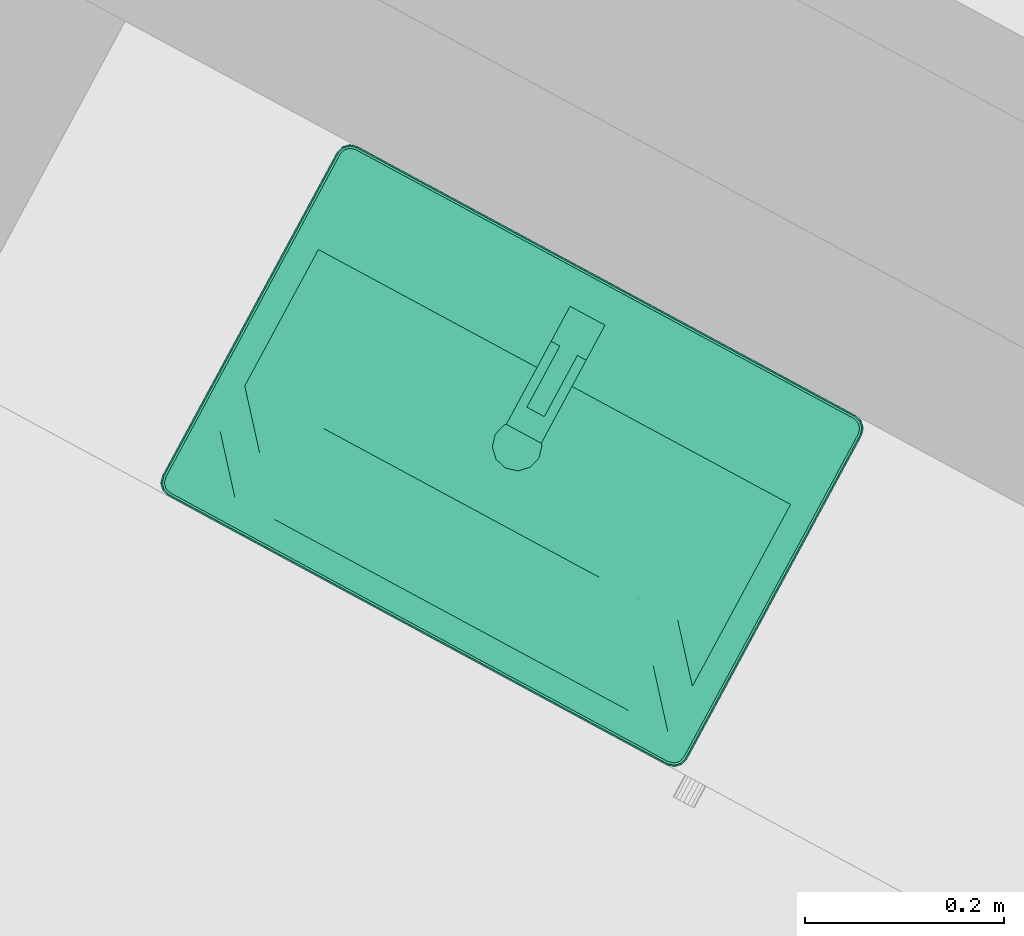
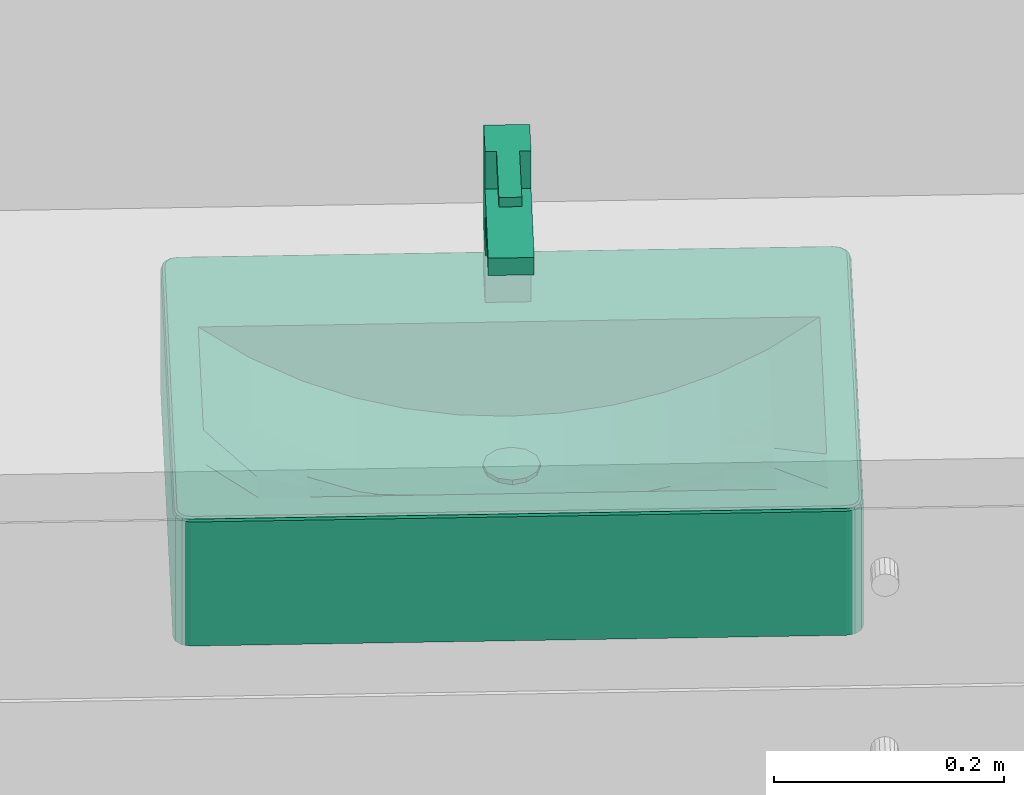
# One storey, part 26 of 52: 1 distribution element.
"""IFC2X3 building model written with IfcOpenShell, lengths in metres."""

from ifc_helpers import new_model, entity, si_unit, converted_unit, derived_unit, money_unit, direction, frame, origin_with_axes, place, context, subcontext, project, spatial, open_shell, faceted_brep, surface_model, type_object, element, save


model = new_model("IFC2X3")

# Units and contexts
model_context = context("Model", 3, precision=1e-05, world=origin_with_axes(), true_north=direction((0.0, 1.0)))
body_context = subcontext(model_context, "Body", "Model", "MODEL_VIEW")
ifc_project = project(units=[si_unit("LENGTHUNIT", "METRE"), si_unit("AREAUNIT", "SQUARE_METRE"), si_unit("VOLUMEUNIT", "CUBIC_METRE"), converted_unit("PLANEANGLEUNIT", "DEGREE", entity("IfcPlaneAngleMeasure", 0.0174532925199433), si_unit("PLANEANGLEUNIT", "RADIAN"), dimensions=[0, 0, 0, 0, 0, 0, 0]), money_unit("EUR"), converted_unit("TIMEUNIT", "Year", entity("IfcTimeMeasure", 31556926.0), si_unit("TIMEUNIT", "SECOND"), dimensions=[0, 0, 1, 0, 0, 0, 0]), si_unit("MASSUNIT", "GRAM", prefix="KILO"), si_unit("THERMODYNAMICTEMPERATUREUNIT", "DEGREE_CELSIUS"), si_unit("LUMINOUSINTENSITYUNIT", "LUMEN"), si_unit("ENERGYUNIT", "JOULE", prefix="MEGA"), derived_unit("THERMALCONDUCTANCEUNIT", [(si_unit("POWERUNIT", "WATT"), 1), (si_unit("LENGTHUNIT", "METRE"), -1), (si_unit("THERMODYNAMICTEMPERATUREUNIT", "KELVIN"), -1)]), derived_unit("SPECIFICHEATCAPACITYUNIT", [(si_unit("ENERGYUNIT", "JOULE"), 1), (si_unit("MASSUNIT", "GRAM", prefix="KILO"), -1), (si_unit("THERMODYNAMICTEMPERATUREUNIT", "KELVIN"), -1)]), derived_unit("MASSDENSITYUNIT", [(si_unit("MASSUNIT", "GRAM", prefix="KILO"), 1), (si_unit("VOLUMEUNIT", "CUBIC_METRE"), -1)])], contexts=[model_context])

# Site, building, storey
site_placement = place(None, frame((-3.949935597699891, 1.740105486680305, 0.0), z_axis=(0.0, 0.0, 1.0), x_axis=(0.8799804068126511, -0.475009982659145, 0.0)))
site = spatial("IfcSite", under=ifc_project, at=site_placement, Name="Gelände", CompositionType="ELEMENT")
building_placement = place(site_placement, origin_with_axes())
building = spatial("IfcBuilding", under=site, at=building_placement, Name="Gebäude", CompositionType="ELEMENT")
storey_placement = place(building_placement, origin_with_axes())
storey = spatial("IfcBuildingStorey", under=building, at=storey_placement, Name="Erdgeschoss", CompositionType="ELEMENT", Elevation=0.0)

# Distribution element
distribution_element_type = type_object("IfcDistributionElementType", Name="Waschbecken 1 22")
distribution_element_placement = place(storey_placement, frame((16.53573121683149, 6.588040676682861, 0.0), z_axis=(0.0, 0.0, 1.0), x_axis=(1.0, 0.0, 0.0)))
element("IfcDistributionElement", 1, at=distribution_element_placement, inside=storey, type_object=distribution_element_type, Name="Objekt-0061", context=body_context, shape_type="SurfaceModel", body=[
    faceted_brep([(-0.285, -0.4, 0.715), (-0.2925, -0.3979903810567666, 0.715), (-0.2979903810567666, -0.3925, 0.715), (-0.3, -0.385, 0.715), (-0.3, -0.01499999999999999, 0.715), (-0.2979903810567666, -0.007500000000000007, 0.715), (-0.2925, -0.002009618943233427, 0.715), (-0.285, 0.0, 0.715), (0.285, 0.0, 0.715), (0.2925, -0.002009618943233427, 0.715), (0.2979903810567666, -0.007500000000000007, 0.715), (0.3, -0.01499999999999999, 0.715), (0.3, -0.385, 0.715), (0.2979903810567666, -0.3925, 0.715), (0.2925, -0.3979903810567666, 0.715), (0.285, -0.4, 0.715), (0.27, -0.37, 0.715), (0.27, -0.11, 0.715), (-0.27, -0.11, 0.715), (-0.27, -0.37, 0.715), (-0.2849999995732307, -0.4000000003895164, 0.845), (-0.292499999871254, -0.3979903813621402, 0.845), (-0.297990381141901, -0.3925000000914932, 0.845), (-0.3000000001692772, -0.3849999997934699, 0.845), (-0.3000000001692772, -0.01499999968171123, 0.845), (-0.297990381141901, -0.00750000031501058, 0.845), (-0.292499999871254, -0.002009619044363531, 0.845), (-0.2849999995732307, 0.0, 0.845), (0.2849999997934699, 0.0, 0.845), (0.2925000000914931, -0.002009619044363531, 0.845), (0.2979903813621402, -0.00750000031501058, 0.845), (0.3000000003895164, -0.01499999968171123, 0.845), (0.3000000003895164, -0.3849999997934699, 0.845), (0.2979903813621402, -0.3925000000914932, 0.845), (0.2925000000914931, -0.3979903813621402, 0.845), (0.2849999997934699, -0.4000000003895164, 0.845), (0.27, -0.11, 0.84999999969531), (0.27, -0.37, 0.84999999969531), (-0.27, -0.11, 0.84999999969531), (-0.27, -0.37, 0.84999999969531), (-0.2849775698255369, -0.3998296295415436, 0.8462940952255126), (-0.292411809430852, -0.3978376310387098, 0.8462940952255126), (-0.2978376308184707, -0.3924118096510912, 0.8462940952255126), (-0.2998296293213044, -0.3849775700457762, 0.8462940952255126), (-0.2998296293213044, -0.01502242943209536, 0.8462940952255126), (-0.2978376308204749, -0.007588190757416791, 0.8462940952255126), (-0.292411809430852, -0.002162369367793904, 0.8462940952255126), (-0.2849775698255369, -0.0001703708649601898, 0.8462940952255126), (0.2849775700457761, -0.0001703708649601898, 0.8462940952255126), (0.2924118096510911, -0.002162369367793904, 0.8462940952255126), (0.297837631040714, -0.007588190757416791, 0.8462940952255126), (0.2998296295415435, -0.01502242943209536, 0.8462940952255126), (0.2998296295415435, -0.3849775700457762, 0.8462940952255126), (0.2978376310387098, -0.3924118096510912, 0.8462940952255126), (0.2924118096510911, -0.3978376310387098, 0.8462940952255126), (0.2849775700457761, -0.3998296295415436, 0.8462940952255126), (0.2843417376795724, -0.004999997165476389, 0.84999999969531), (-0.2843417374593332, -0.004999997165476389, 0.84999999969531), (-0.2899118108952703, -0.006492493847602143, 0.84999999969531), (-0.2935075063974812, -0.01008818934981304, 0.84999999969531), (-0.2950000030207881, -0.01565826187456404, 0.84999999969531), (-0.2950000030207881, -0.3843417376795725, 0.84999999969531), (-0.2935075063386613, -0.3899118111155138, 0.84999999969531), (-0.2899118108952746, -0.3935075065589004, 0.84999999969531), (-0.2843417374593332, -0.3950000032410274, 0.84999999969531), (0.2843417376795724, -0.3950000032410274, 0.84999999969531), (0.2899118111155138, -0.3935075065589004, 0.84999999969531), (0.2935075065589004, -0.3899118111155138, 0.84999999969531), (0.2950000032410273, -0.3843417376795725, 0.84999999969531), (0.2950000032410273, -0.01565826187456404, 0.84999999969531), (0.2935075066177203, -0.01008818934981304, 0.84999999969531), (0.2899118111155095, -0.006492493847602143, 0.84999999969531), (-0.2848071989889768, -0.3985355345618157, 0.8485355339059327), (-0.2917419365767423, -0.3966773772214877, 0.8485355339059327), (-0.2966773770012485, -0.3917419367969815, 0.8485355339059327), (-0.2985355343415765, -0.384807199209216, 0.8485355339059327), (-0.2985355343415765, -0.0151928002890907, 0.8485355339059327), (-0.2966773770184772, -0.008258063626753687, 0.8485355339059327), (-0.2917419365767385, -0.003322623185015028, 0.8485355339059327), (-0.2848071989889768, -0.001464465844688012, 0.8485355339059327), (0.2848071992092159, -0.001464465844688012, 0.8485355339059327), (0.2917419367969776, -0.003322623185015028, 0.8485355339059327), (0.2966773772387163, -0.008258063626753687, 0.8485355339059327), (0.2985355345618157, -0.0151928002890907, 0.8485355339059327), (0.2985355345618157, -0.384807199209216, 0.8485355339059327), (0.2966773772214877, -0.3917419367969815, 0.8485355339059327), (0.2917419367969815, -0.3966773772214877, 0.8485355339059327), (0.2848071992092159, -0.3985355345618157, 0.8485355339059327), (0.2845121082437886, -0.00370590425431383, 0.8498296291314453), (-0.2845121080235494, -0.00370590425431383, 0.8498296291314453), (-0.290581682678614, -0.005332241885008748, 0.8498296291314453), (-0.2946677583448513, -0.009418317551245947, 0.8498296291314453), (-0.2962940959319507, -0.01548789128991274, 0.8498296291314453), (-0.2962940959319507, -0.3845121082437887, 0.8498296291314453), (-0.2946677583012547, -0.3905816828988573, 0.8498296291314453), (-0.2905816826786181, -0.3946677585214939, 0.8498296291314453), (-0.2845121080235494, -0.3962940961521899, 0.8498296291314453), (0.2845121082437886, -0.3962940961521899, 0.8498296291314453), (0.2905816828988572, -0.3946677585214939, 0.8498296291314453), (0.2946677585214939, -0.3905816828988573, 0.8498296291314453), (0.2962940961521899, -0.3845121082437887, 0.8498296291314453), (0.2962940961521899, -0.01548789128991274, 0.8498296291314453), (0.2946677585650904, -0.009418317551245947, 0.8498296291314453), (0.2905816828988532, -0.005332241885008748, 0.8498296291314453)], [[[0, 1, 2, 3, 4, 5, 6, 7, 8, 9, 10, 11, 12, 13, 14, 15], [16, 17, 18, 19]], [[1, 0, 20, 21]], [[2, 1, 21, 22]], [[3, 2, 22, 23]], [[4, 3, 23, 24]], [[5, 4, 24, 25]], [[6, 5, 25, 26]], [[7, 6, 26, 27]], [[8, 7, 27, 28]], [[9, 8, 28, 29]], [[10, 9, 29, 30]], [[11, 10, 30, 31]], [[12, 11, 31, 32]], [[13, 12, 32, 33]], [[14, 13, 33, 34]], [[15, 14, 34, 35]], [[0, 15, 35, 20]], [[36, 17, 16, 37]], [[38, 18, 17, 36]], [[39, 19, 18, 38]], [[37, 16, 19, 39]], [[21, 20, 40, 41]], [[22, 21, 41, 42]], [[23, 22, 42, 43]], [[24, 23, 43, 44]], [[25, 24, 44, 45]], [[26, 25, 45, 46]], [[27, 26, 46, 47]], [[28, 27, 47, 48]], [[29, 28, 48, 49]], [[30, 29, 49, 50]], [[31, 30, 50, 51]], [[32, 31, 51, 52]], [[33, 32, 52, 53]], [[34, 33, 53, 54]], [[35, 34, 54, 55]], [[20, 35, 55, 40]], [[56, 57, 58, 59, 60, 61, 62, 63, 64, 65, 66, 67, 68, 69, 70, 71], [37, 39, 38, 36]], [[41, 40, 72, 73]], [[42, 41, 73, 74]], [[43, 42, 74, 75]], [[44, 43, 75, 76]], [[45, 44, 76, 77]], [[46, 45, 77, 78]], [[47, 46, 78, 79]], [[48, 47, 79, 80]], [[49, 48, 80, 81]], [[50, 49, 81, 82]], [[51, 50, 82, 83]], [[52, 51, 83, 84]], [[53, 52, 84, 85]], [[54, 53, 85, 86]], [[55, 54, 86, 87]], [[40, 55, 87, 72]], [[88, 89, 57, 56]], [[89, 90, 58, 57]], [[90, 91, 59, 58]], [[91, 92, 60, 59]], [[92, 93, 61, 60]], [[93, 94, 62, 61]], [[94, 95, 63, 62]], [[95, 96, 64, 63]], [[96, 97, 65, 64]], [[97, 98, 66, 65]], [[98, 99, 67, 66]], [[99, 100, 68, 67]], [[100, 101, 69, 68]], [[101, 102, 70, 69]], [[102, 103, 71, 70]], [[103, 88, 56, 71]], [[73, 72, 96, 95]], [[74, 73, 95, 94]], [[75, 74, 94, 93]], [[76, 75, 93, 92]], [[77, 76, 92, 91]], [[78, 77, 91, 90]], [[79, 78, 90, 89]], [[80, 79, 89, 88]], [[81, 80, 88, 103]], [[82, 81, 103, 102]], [[83, 82, 102, 101]], [[84, 83, 101, 100]], [[85, 84, 100, 99]], [[86, 85, 99, 98]], [[87, 86, 98, 97]], [[72, 87, 97, 96]]]),
    faceted_brep([(0.27, -0.37, 0.715), (-0.27, -0.37, 0.715), (-0.27, -0.11, 0.715), (0.27, -0.11, 0.715), (-0.01249999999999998, -0.210733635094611, 0.715), (0.0, -0.214083, 0.715), (0.01250000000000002, -0.210733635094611, 0.715), (0.02165063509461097, -0.201583, 0.715), (0.025, -0.189083, 0.715), (0.02165063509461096, -0.176583, 0.715), (0.01249999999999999, -0.167432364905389, 0.715), (0.0, -0.164083, 0.715), (-0.01250000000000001, -0.167432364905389, 0.715), (-0.02165063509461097, -0.176583, 0.715), (-0.025, -0.189083, 0.715), (-0.02165063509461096, -0.201583, 0.715), (0.135, -0.37, 0.85), (0.09, -0.37, 0.85), (0.04499999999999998, -0.37, 0.85), (0.0, -0.37, 0.85), (-0.04500000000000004, -0.37, 0.85), (-0.09000000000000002, -0.37, 0.85), (-0.135, -0.37, 0.85), (-0.18, -0.37, 0.85), (-0.225, -0.37, 0.85), (-0.27, -0.37, 0.85), (0.27, -0.37, 0.85), (0.225, -0.37, 0.85), (0.18, -0.37, 0.85), (-0.27, -0.214, 0.8499999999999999), (-0.27, -0.162, 0.8499999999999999), (-0.27, -0.11, 0.8499999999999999), (-0.27, -0.318, 0.85), (-0.27, -0.266, 0.8499999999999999), (-0.135, -0.11, 0.7726004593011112), (-0.09000000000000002, -0.11, 0.7598887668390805), (-0.04500000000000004, -0.11, 0.752449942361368), (0.0, -0.11, 0.75), (0.04499999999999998, -0.11, 0.752449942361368), (0.09, -0.11, 0.7598887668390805), (0.135, -0.11, 0.7726004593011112), (0.18, -0.11, 0.7911231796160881), (0.225, -0.11, 0.8163832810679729), (0.27, -0.11, 0.8500000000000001), (-0.225, -0.11, 0.8163832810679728), (-0.18, -0.11, 0.7911231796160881), (0.27, -0.266, 0.85), (0.27, -0.318, 0.85), (0.27, -0.162, 0.8500000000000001), (0.27, -0.214, 0.8500000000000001), (-0.0003097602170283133, -0.214, 0.7500168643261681), (0.0, -0.214083, 0.7500182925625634), (-0.01249999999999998, -0.210733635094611, 0.7506805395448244), (5.830679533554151e-05, -0.2140673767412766, 0.750017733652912), (0.0003097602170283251, -0.214, 0.7500168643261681), (0.01250000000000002, -0.210733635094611, 0.7506805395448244), (0.02165063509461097, -0.201583, 0.7511787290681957), (0.025, -0.189083, 0.7513610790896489), (0.02165063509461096, -0.176583, 0.7511787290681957), (0.01249999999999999, -0.167432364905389, 0.7506805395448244), (0.0, -0.164083, 0.75), (-0.01250000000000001, -0.167432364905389, 0.7506805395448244), (-0.02165063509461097, -0.176583, 0.7511787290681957), (-0.025, -0.189083, 0.7513610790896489), (-0.02165063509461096, -0.201583, 0.7511787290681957), (0.09, -0.318, 0.8096989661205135), (0.04499999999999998, -0.318, 0.8060213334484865), (0.0, -0.318, 0.8047990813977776), (-0.04500000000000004, -0.318, 0.8060213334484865), (-0.09000000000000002, -0.318, 0.8096989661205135), (-0.135, -0.318, 0.8158650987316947), (-0.18, -0.318, 0.8245766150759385), (-0.225, -0.318, 0.8359168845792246), (0.225, -0.318, 0.8359168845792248), (0.18, -0.318, 0.8245766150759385), (0.135, -0.318, 0.8158650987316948), (-0.225, -0.214, 0.8163832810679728), (-0.225, -0.162, 0.8163832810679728), (-0.225, -0.266, 0.8208433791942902), (-0.135, -0.162, 0.7726004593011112), (-0.09000000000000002, -0.162, 0.7598887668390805), (-0.04500000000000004, -0.162, 0.752449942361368), (0.0, -0.162, 0.75), (0.04499999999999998, -0.162, 0.752449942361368), (0.09, -0.162, 0.7598887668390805), (0.135, -0.162, 0.7726004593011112), (0.18, -0.162, 0.7911231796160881), (0.225, -0.162, 0.8163832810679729), (-0.18, -0.162, 0.7911231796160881), (0.225, -0.266, 0.8208433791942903), (0.225, -0.214, 0.8163832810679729), (-0.04500000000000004, -0.214, 0.752449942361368), (0.0, -0.266, 0.7614604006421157), (0.04499999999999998, -0.266, 0.7636864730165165), (0.04499999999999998, -0.214, 0.752449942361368), (-0.18, -0.214, 0.7911231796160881), (-0.135, -0.214, 0.7726004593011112), (-0.09000000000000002, -0.214, 0.7598887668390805), (0.09, -0.214, 0.7598887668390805), (0.135, -0.214, 0.7726004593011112), (0.18, -0.214, 0.7911231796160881), (-0.04500000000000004, -0.266, 0.7636864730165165), (0.09, -0.266, 0.7704312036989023), (-0.09000000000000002, -0.266, 0.7704312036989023), (-0.135, -0.266, 0.781904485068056), (-0.18, -0.266, 0.7984946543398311), (0.18, -0.266, 0.7984946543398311), (0.135, -0.266, 0.781904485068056)], [[[0, 1, 2, 3], [4, 5, 6, 7, 8, 9, 10, 11, 12, 13, 14, 15]], [[16, 17, 18, 19, 20, 21, 22, 23, 24, 25, 1, 0, 26, 27, 28]], [[29, 30, 31, 2, 1, 25, 32, 33]], [[34, 35, 36, 37, 38, 39, 40, 41, 42, 43, 3, 2, 31, 44, 45]], [[46, 47, 26, 0, 3, 43, 48, 49]], [[50, 51, 5, 4, 52]], [[53, 54, 55, 6, 5, 51]], [[56, 7, 6, 55]], [[57, 8, 7, 56]], [[58, 9, 8, 57]], [[59, 10, 9, 58]], [[60, 11, 10, 59]], [[61, 12, 11, 60]], [[62, 13, 12, 61]], [[63, 14, 13, 62]], [[64, 15, 14, 63]], [[52, 4, 15, 64]], [[16, 65, 17]], [[17, 66, 18]], [[18, 67, 19]], [[19, 68, 20]], [[20, 69, 21]], [[21, 70, 22]], [[22, 71, 23]], [[23, 72, 24]], [[24, 32, 25]], [[26, 73, 27]], [[27, 74, 28]], [[28, 75, 16]], [[29, 76, 77, 30]], [[30, 77, 44, 31]], [[72, 33, 32]], [[78, 29, 33]], [[79, 80, 35, 34]], [[80, 81, 36, 35]], [[81, 82, 37, 36]], [[82, 83, 38, 37]], [[83, 84, 39, 38]], [[84, 85, 40, 39]], [[85, 86, 41, 40]], [[86, 87, 42, 41]], [[87, 48, 43, 42]], [[77, 88, 45, 44]], [[88, 79, 34, 45]], [[47, 46, 89]], [[26, 47, 73]], [[90, 49, 48, 87]], [[46, 49, 90]], [[50, 91, 92, 51]], [[61, 60, 82, 81, 91, 50, 52, 64, 63, 62]], [[53, 93, 94, 54]], [[59, 58, 57, 56, 55, 54, 94, 83, 82, 60]], [[51, 92, 93, 53]], [[16, 75, 65]], [[17, 65, 66]], [[18, 66, 67]], [[19, 67, 68]], [[20, 68, 69]], [[21, 69, 70]], [[22, 70, 71]], [[23, 71, 72]], [[24, 72, 32]], [[27, 73, 74]], [[28, 74, 75]], [[78, 76, 29]], [[76, 95, 88, 77]], [[72, 78, 33]], [[96, 97, 80, 79]], [[97, 91, 81, 80]], [[94, 98, 84, 83]], [[98, 99, 85, 84]], [[99, 100, 86, 85]], [[100, 90, 87, 86]], [[95, 96, 79, 88]], [[46, 90, 89]], [[47, 89, 73]], [[92, 91, 101]], [[102, 94, 93]], [[66, 93, 92]], [[75, 102, 65]], [[65, 93, 66]], [[66, 92, 67]], [[67, 101, 68]], [[68, 103, 69]], [[69, 104, 70]], [[70, 105, 71]], [[71, 78, 72]], [[73, 106, 74]], [[74, 107, 75]], [[105, 76, 78]], [[105, 95, 76]], [[103, 97, 96]], [[101, 91, 97]], [[102, 98, 94]], [[107, 99, 98]], [[106, 100, 99]], [[89, 90, 100]], [[104, 96, 95]], [[73, 89, 106]], [[67, 92, 101]], [[65, 102, 93]], [[75, 107, 102]], [[68, 101, 103]], [[69, 103, 104]], [[70, 104, 105]], [[71, 105, 78]], [[74, 106, 107]], [[104, 95, 105]], [[101, 97, 103]], [[103, 96, 104]], [[107, 98, 102]], [[106, 99, 107]], [[89, 100, 106]]]),
    faceted_brep([(-0.02165063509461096, -0.201583, 0.75), (-0.025, -0.189083, 0.75), (-0.02165063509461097, -0.176583, 0.75), (-0.01250000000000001, -0.167432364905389, 0.75), (0.0, -0.164083, 0.75), (0.01249999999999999, -0.167432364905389, 0.75), (0.02165063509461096, -0.176583, 0.75), (0.025, -0.189083, 0.75), (0.02165063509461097, -0.201583, 0.75), (0.01250000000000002, -0.210733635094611, 0.75), (0.0, -0.214083, 0.75), (-0.01249999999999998, -0.210733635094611, 0.75), (-0.02165063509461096, -0.201583, 0.755), (-0.025, -0.189083, 0.755), (-0.02165063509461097, -0.176583, 0.755), (-0.01250000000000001, -0.167432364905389, 0.755), (0.0, -0.164083, 0.755), (0.01249999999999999, -0.167432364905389, 0.755), (0.02165063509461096, -0.176583, 0.755), (0.025, -0.189083, 0.755), (0.02165063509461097, -0.201583, 0.755), (0.01250000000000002, -0.210733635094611, 0.755), (0.0, -0.214083, 0.755), (-0.01249999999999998, -0.210733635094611, 0.755)], [[[0, 1, 2, 3, 4, 5, 6, 7, 8, 9, 10, 11]], [[0, 12, 13, 1]], [[1, 13, 14, 2]], [[2, 14, 15, 3]], [[3, 15, 16, 4]], [[4, 16, 17, 5]], [[5, 17, 18, 6]], [[6, 18, 19, 7]], [[7, 19, 20, 8]], [[8, 20, 21, 9]], [[9, 21, 22, 10]], [[10, 22, 23, 11]], [[11, 23, 12, 0]], [[12, 23, 22, 21, 20, 19, 18, 17, 16, 15, 14, 13]]]),
    surface_model("IfcShellBasedSurfaceModel", [(0.0, -0.189083, 0.757), (0.006310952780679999, -0.1781521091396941, 0.7564975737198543), (0.0, -0.17646109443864, 0.7564975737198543), (0.01093089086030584, -0.18277204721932, 0.7564975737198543), (0.0125, -0.167432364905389, 0.755), (0.0, -0.164083, 0.755), (-0.006310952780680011, -0.1781521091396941, 0.7564975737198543), (0.01262190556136, -0.189083, 0.7564975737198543), (0.02165063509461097, -0.176583, 0.755), (-0.01250000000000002, -0.167432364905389, 0.755), (-0.01093089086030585, -0.18277204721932, 0.7564975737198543), (0.01093089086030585, -0.19539395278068, 0.7564975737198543), (0.025, -0.189083, 0.755), (-0.02165063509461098, -0.176583, 0.755), (-0.01262190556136, -0.189083, 0.7564975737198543), (0.006310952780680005, -0.2000138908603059, 0.7564975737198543), (0.02165063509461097, -0.201583, 0.755), (-0.025, -0.189083, 0.755), (-0.01093089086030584, -0.19539395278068, 0.7564975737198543), (0.0, -0.20170490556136, 0.7564975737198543), (0.01250000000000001, -0.210733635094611, 0.755), (-0.02165063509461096, -0.201583, 0.755), (-0.006310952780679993, -0.2000138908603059, 0.7564975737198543), (0.0, -0.214083, 0.755), (-0.01249999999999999, -0.210733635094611, 0.755)], [open_shell([[[0, 1, 2]], [[0, 3, 1]], [[1, 4, 5, 2]], [[0, 2, 6]], [[0, 7, 3]], [[3, 8, 4, 1]], [[2, 5, 9, 6]], [[0, 6, 10]], [[0, 11, 7]], [[7, 12, 8, 3]], [[6, 9, 13, 10]], [[0, 10, 14]], [[0, 15, 11]], [[11, 16, 12, 7]], [[10, 13, 17, 14]], [[0, 14, 18]], [[0, 19, 15]], [[15, 20, 16, 11]], [[14, 17, 21, 18]], [[0, 18, 22]], [[0, 22, 19]], [[19, 23, 20, 15]], [[18, 21, 24, 22]], [[22, 24, 23, 19]]])]),
    faceted_brep([(-0.02, -0.03999999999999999, 0.85), (0.02, -0.04, 0.85), (0.02, -0.08, 0.85), (-0.02, -0.08, 0.85), (-0.02000000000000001, -0.03999999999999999, 0.97), (0.01999999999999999, -0.04, 0.97), (0.01999999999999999, -0.08, 0.97), (0.01999999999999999, -0.175, 0.9633569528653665), (0.01999999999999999, -0.175, 0.945), (0.01999999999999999, -0.08, 0.945), (-0.02000000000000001, -0.08, 0.945), (-0.02000000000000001, -0.175, 0.945), (-0.02000000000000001, -0.175, 0.9633569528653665), (-0.02000000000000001, -0.08, 0.97)], [[[0, 1, 2, 3]], [[4, 5, 1, 0]], [[1, 5, 6, 7, 8, 9, 2]], [[3, 2, 9, 10]], [[0, 3, 10, 11, 12, 13, 4]], [[13, 6, 5, 4]], [[12, 7, 6, 13]], [[11, 8, 7, 12]], [[10, 9, 8, 11]]]),
    faceted_brep([(-0.02, -0.03999999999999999, 0.97), (0.02, -0.04, 0.97), (0.02, -0.08, 0.97), (-0.02, -0.08, 0.97), (-0.02, -0.03999999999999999, 1.01), (0.02, -0.04, 1.01), (0.01999999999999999, -0.08, 1.01), (-0.02, -0.08, 1.01)], [[[0, 1, 2, 3]], [[4, 5, 1, 0]], [[1, 5, 6, 2]], [[3, 2, 6, 7]], [[0, 3, 7, 4]], [[7, 6, 5, 4]]]),
    faceted_brep([(-0.01, -0.08, 1.0), (0.009999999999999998, -0.08, 1.0), (0.009999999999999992, -0.15, 1.0), (-0.01000000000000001, -0.15, 1.0), (-0.01, -0.08, 1.01), (0.009999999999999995, -0.08, 1.01), (0.009999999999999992, -0.15, 1.01), (-0.01000000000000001, -0.15, 1.01)], [[[0, 1, 2, 3]], [[4, 5, 1, 0]], [[1, 5, 6, 2]], [[3, 2, 6, 7]], [[0, 3, 7, 4]], [[7, 6, 5, 4]]]),
])

save(model, "model.ifc")
